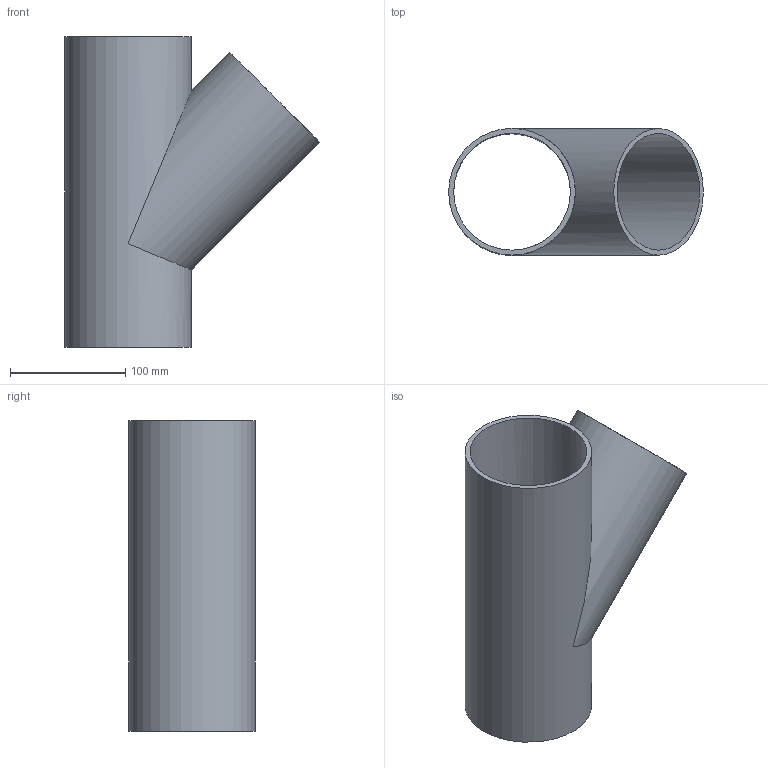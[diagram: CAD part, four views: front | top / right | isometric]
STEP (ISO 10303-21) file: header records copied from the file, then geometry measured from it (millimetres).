
FILE_DESCRIPTION(/* description */ (''),/* implementation_level */ '2;1');
FILE_NAME(/* name */ 'C:\Planerdaten\Export PLA\PRO_101557\stp\367135.stp',/* time_stamp */ '2021-09-30T15:06:57+02:00',/* author */ ('JANAN'),/* organization */ (''),/* preprocessor_version */ 'ST-DEVELOPER v16.13',/* originating_system */ 'Autodesk Inventor 2018',/* authorisation */ '');
FILE_SCHEMA (('AUTOMOTIVE_DESIGN { 1 0 10303 214 3 1 1 }'));
Length unit declared in the file: millimetre
Products named in the file (1): tmp2B43.tmp
Bounding box: 221.17 x 110 x 270 mm (x, y, z)
Volume: 506591.1 mm3; surface area: 239837.7 mm2
Topology: 1 solids, 1 shells, 7 faces, 19 edges, 14 vertices
Faces by surface type: cylinder 4, plane 3
Full cylindrical faces by diameter (mm): 101.4 x2, 110 x2
Entity records: 228 total; most frequent: DIRECTION 36, CARTESIAN_POINT 28, ORIENTED_EDGE 20, AXIS2_PLACEMENT_3D 18, EDGE_LOOP 16, VERTEX_POINT 10, EDGE_CURVE 10, FACE_BOUND 9
